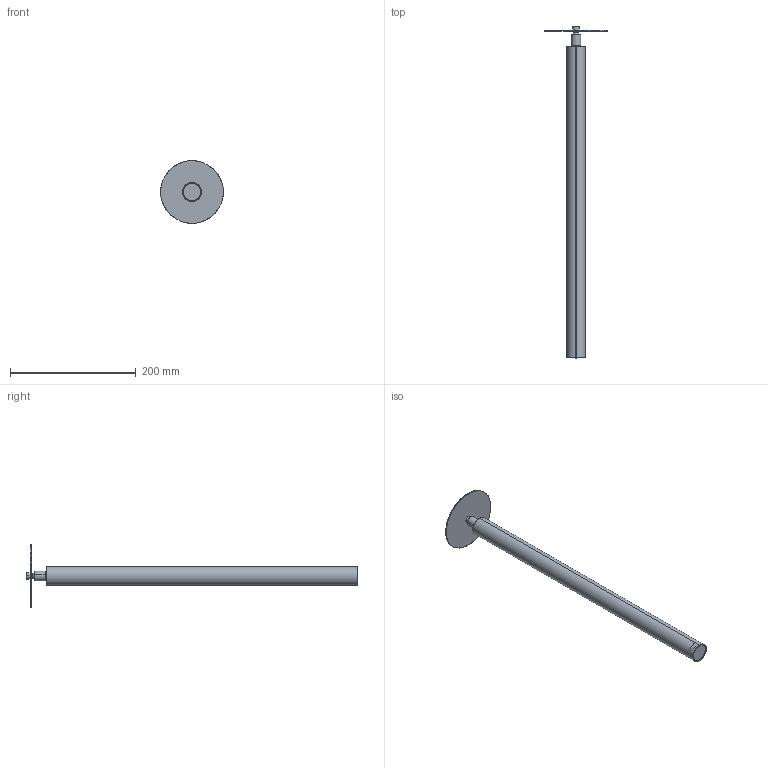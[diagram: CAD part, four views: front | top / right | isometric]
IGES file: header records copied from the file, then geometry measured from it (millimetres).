
Start section: SolidWorks IGES file using analytic representation for surfaces
Global section: file name: C:\Users\tungari.NEMOLIGHTING\Desktop\3D\CEILING\3D_CANNA_NUDA_METALLOOOO\DEF\3D_CANNA_NUDA_METALLO50.IGS; native system: SolidWorks 2016; preprocessor: SolidWorks 2016; author: tungari; date: 180316.100904; units: millimetre
Bounding box: 99.94 x 527.9 x 99.94 mm (x, y, z)
Surface area: 67667 mm2 (no closed solid volume)
Topology: 0 solids, 0 shells, 36 faces, 872 edges, 872 vertices
Faces by surface type: revolution 26, bspline 10
